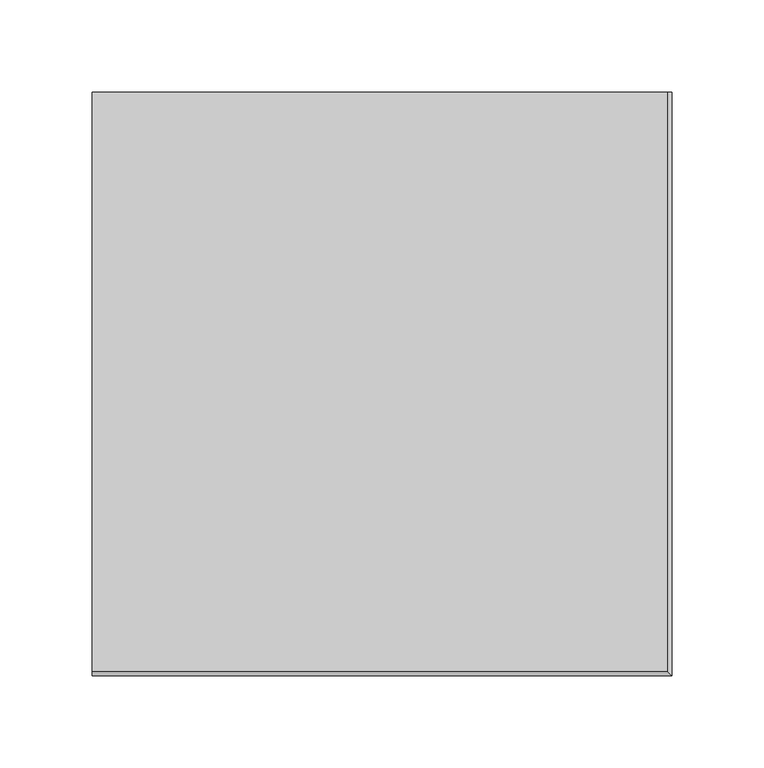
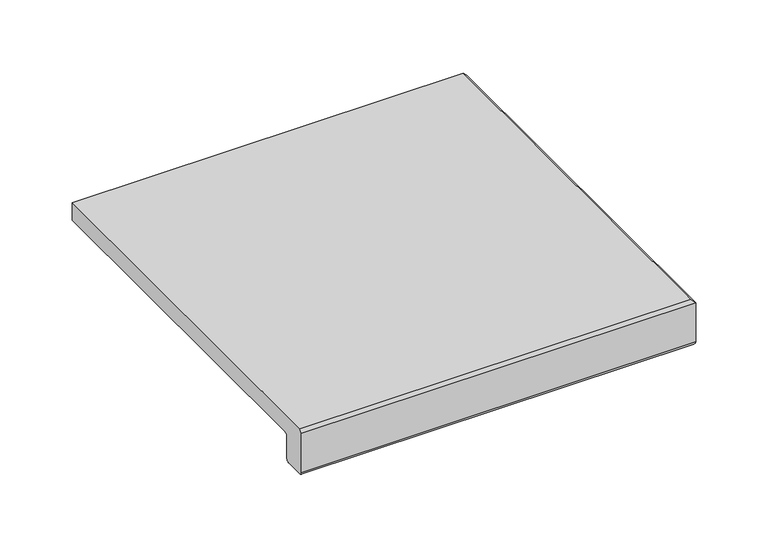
"""IFC4 building model written with IfcOpenShell, lengths in millimetres: proxy geometry, ROSA GRES_ED6 (largo y profundidad) : Pieza ED6_Tao_Beige_Anti-Slip."""

from ifc_helpers import new_model, si_unit, frame, origin, place, context, project, spatial, polyline, circle_curve, ellipse_curve, source, transform, mapped, element, save
from ifc_brep_helpers import plane_surface, cylinder_surface, revolved_surface, advanced_brep


def generic_models_63c795dd(model_context):
    return source(origin(), model_context, "Body", "AdvancedBrep", [
        advanced_brep(
        [(0.0, 317.0, -35.5), (-2.5, 317.0, -38.0), (-17.5, 317.0, -38.0), (-20.0, 317.0, -35.5), (-20.0, 317.0, -17.2964749), (-22.5, 317.0, -14.7964749), (-315.0, 317.0, -14.7964749), (-315.0, 317.0, 0.0), (-2.5, 317.0, 0.0), (0.0, 317.0, -2.5), (-22.5, 22.5, -14.7964749), (-315.0, 22.5, -14.7964749), (0.0, 0.0, -35.5), (-2.5, 2.5, -38.0), (-315.0, 2.5, -38.0), (-315.0, 17.5, -38.0), (-17.5, 17.5, -38.0), (-20.0, 20.0, -35.5), (-20.0, 20.0, -17.2964749), (-2.5, 2.5, 0.0), (-315.0, 2.5, 0.0), (0.0, 0.0, -2.5), (-315.0, 0.0, -35.5), (-315.0, 20.0, -35.5), (-315.0, 20.0, -17.2964749), (-315.0, 0.0, -2.5)],
        [
            (0, 1, circle_curve(frame((-2.5, 317.0, -35.5), z_axis=(0.0, 1.0, 0.0), x_axis=(1.0, 0.0, 0.0)), 2.5)),
            (1, 2),
            (2, 3, circle_curve(frame((-17.5, 317.0, -35.5), z_axis=(0.0, 1.0, 0.0), x_axis=(1.0, 0.0, 0.0)), 2.5)),
            (3, 4),
            (4, 5, circle_curve(frame((-22.5, 317.0, -17.2964749), z_axis=(0.0, -1.0, 0.0), x_axis=(1.0, 0.0, 0.0)), 2.5)),
            (5, 6),
            (6, 7),
            (7, 8),
            (8, 9),
            (9, 0),
            (5, 10),
            (10, 11),
            (11, 6),
            (0, 12),
            (12, 13, ellipse_curve(frame((-2.5, 2.5, -35.5), z_axis=(0.7071067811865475, 0.7071067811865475, 0.0), x_axis=(-0.7071067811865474, 0.7071067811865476, 0.0)), 3.5355339, 2.5)),
            (13, 1),
            (13, 14),
            (14, 15),
            (15, 16),
            (16, 2),
            (16, 17, ellipse_curve(frame((-17.5, 17.5, -35.5), z_axis=(0.7071067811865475, 0.7071067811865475, 0.0), x_axis=(-0.7071067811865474, 0.7071067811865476, 0.0)), 3.5355339, 2.5)),
            (17, 3),
            (17, 18),
            (18, 4),
            (18, 10, ellipse_curve(frame((-22.5, 22.5, -17.2964749), z_axis=(-0.7071067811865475, -0.7071067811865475, 0.0), x_axis=(0.7071067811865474, -0.7071067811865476, 0.0)), 3.5355339, 2.5)),
            (19, 8),
            (7, 20),
            (20, 19),
            (19, 21),
            (21, 9),
            (21, 12),
            (12, 22),
            (22, 14, circle_curve(frame((-315.0, 2.5, -35.5), z_axis=(1.0, 0.0, 0.0), x_axis=(0.0, -1.0, 0.0)), 2.5)),
            (15, 23, circle_curve(frame((-315.0, 17.5, -35.5), z_axis=(1.0, 0.0, 0.0), x_axis=(0.0, -1.0, 0.0)), 2.5)),
            (23, 17),
            (23, 24),
            (24, 18),
            (24, 11, circle_curve(frame((-315.0, 22.5, -17.2964749), z_axis=(-1.0, 0.0, 0.0), x_axis=(0.0, -1.0, 0.0)), 2.5)),
            (20, 25),
            (25, 21),
            (25, 22),
        ],
        [
            plane_surface(frame((0.0, 317.0, 0.0), z_axis=(0.0, 1.0, 0.0), x_axis=(0.0, 0.0, 1.0))),
            plane_surface(frame((-626.0, -294.5, -14.7964749), z_axis=(0.0, 0.0, -1.0), x_axis=(0.0, 1.0, 0.0))),
            cylinder_surface(frame((-2.5, 317.0, -35.5), z_axis=(0.0, 1.0, 0.0), x_axis=(1.0, 0.0, 0.0)), 2.5),
            plane_surface(frame((-2.5, 317.0, -38.0), z_axis=(0.0, 0.0, -1.0), x_axis=(0.0, -1.0, 0.0))),
            cylinder_surface(frame((-17.5, 317.0, -35.5), z_axis=(0.0, 1.0, 0.0), x_axis=(1.0, 0.0, 0.0)), 2.5),
            plane_surface(frame((-20.0, 317.0, -35.5), z_axis=(-1.0, 0.0, 0.0), x_axis=(0.0, -1.0, 0.0))),
            revolved_surface(polyline([(-20.0, 20.0, -17.2964749), (-20.0, 317.0, -17.2964749)]), (-22.5, 317.0, -17.2964749), (0.0, -1.0, 0.0)),
            plane_surface(frame((-22.5, 317.0, 0.0), z_axis=(0.0, 0.0, 1.0), x_axis=(0.0, -1.0, 0.0))),
            plane_surface(frame((-2.5, 317.0, 0.0), z_axis=(0.7071067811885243, 0.0, 0.7071067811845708), x_axis=(0.0, -1.0, 0.0))),
            plane_surface(frame((0.0, 317.0, -2.5), z_axis=(1.0, 0.0, 0.0), x_axis=(0.0, -1.0, 0.0))),
            cylinder_surface(frame((0.0, 2.5, -35.5), z_axis=(1.0, 0.0, 0.0), x_axis=(0.0, -1.0, 0.0)), 2.5),
            cylinder_surface(frame((0.0, 17.5, -35.5), z_axis=(1.0, 0.0, 0.0), x_axis=(0.0, -1.0, 0.0)), 2.5),
            plane_surface(frame((-20.0, 20.0, -35.5), z_axis=(0.0, 1.0, 0.0), x_axis=(-1.0, 0.0, 0.0))),
            revolved_surface(polyline([(-315.0, 20.0, -17.2964749), (-20.0, 20.0, -17.2964749)]), (0.0, 22.5, -17.2964749), (-1.0, 0.0, 0.0)),
            plane_surface(frame((-2.5, 2.5, 0.0), z_axis=(0.0, -0.7071067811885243, 0.7071067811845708), x_axis=(-1.0, 0.0, 0.0))),
            plane_surface(frame((0.0, 0.0, -2.5), z_axis=(0.0, -1.0, 0.0), x_axis=(-1.0, 0.0, 0.0))),
            plane_surface(frame((-315.0, 0.0, 7.0), z_axis=(-1.0, 0.0, 0.0), x_axis=(0.0, 0.0, -1.0))),
        ],
        [
            (0, [[1, 2, 3, 4, 5, 6, 7, 8, 9, 10]]),
            (1, [[11, 12, 13, -6]]),
            (2, [[-1, 14, 15, 16]]),
            (3, [[-2, -16, 17, 18, 19, 20]]),
            (4, [[-3, -20, 21, 22]]),
            (5, [[-4, -22, 23, 24]]),
            (6, [[-5, -24, 25, -11]]),
            (7, [[26, -8, 27, 28]]),
            (8, [[-9, -26, 29, 30]]),
            (9, [[-10, -30, 31, -14]]),
            (10, [[-15, 32, 33, -17]]),
            (11, [[-21, -19, 34, 35]]),
            (12, [[-23, -35, 36, 37]]),
            (13, [[-25, -37, 38, -12]]),
            (14, [[-29, -28, 39, 40]]),
            (15, [[-31, -40, 41, -32]]),
            (16, [[-7, -13, -38, -36, -34, -18, -33, -41, -39, -27]]),
        ],
    ),
    ])


if __name__ == "__main__":
    model = new_model("IFC4")
    model_context = context("Model", 3, world=origin())
    ifc_project = project(units=[si_unit("LENGTHUNIT", "METRE", prefix="MILLI")], contexts=[model_context])
    site = spatial("IfcSite", under=ifc_project)
    building = spatial("IfcBuilding", under=site)
    placement = place(None, origin())
    generic_models_shape = generic_models_63c795dd(model_context)
    element("IfcBuildingElementProxy", 1, Name="ROSA GRES_ED6 (largo y profundidad) : Pieza ED6_Tao_Beige_Anti-Slip", ObjectType="ROSA GRES_ED6 (largo y profundidad) : Pieza ED6_Tao_Beige_Anti-Slip", at=placement, inside=building, context=model_context, shape_type="MappedRepresentation", body=[
        mapped(generic_models_shape, transform((0.0, 0.0, 0.0), x_axis=(1.0, 0.0, 0.0), y_axis=(0.0, 1.0, 0.0), z_axis=(0.0, 0.0, 1.0))),
    ])
    save(model, "model.ifc")
